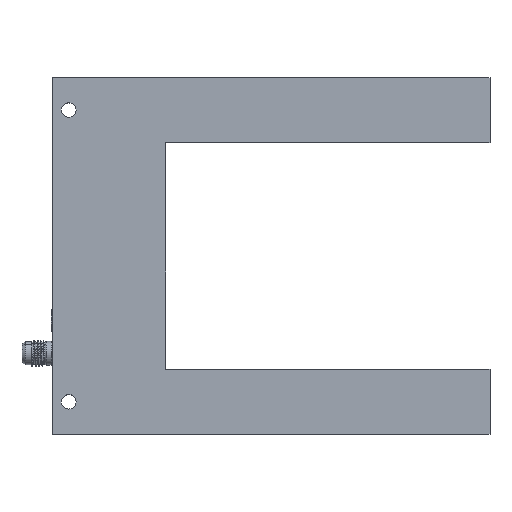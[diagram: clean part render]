
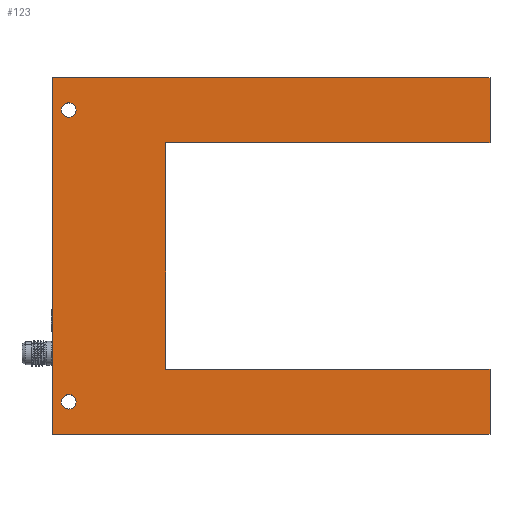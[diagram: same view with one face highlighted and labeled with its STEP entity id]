
A CAD part, top view. The second image highlights one B-rep face of the part: STEP entity #123.
In plain terms, the highlighted planar face has unit normal (0, 0, 1).
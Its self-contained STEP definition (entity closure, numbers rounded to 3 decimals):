
#123=ADVANCED_FACE('',(#318,#319,#320),#321,.T.);
#318=FACE_BOUND('',#598,.T.);
#319=FACE_BOUND('',#599,.T.);
#320=FACE_OUTER_BOUND('',#600,.T.);
#321=PLANE('',#601);
#598=EDGE_LOOP('',(#2289,#2290));
#599=EDGE_LOOP('',(#2291,#2292));
#600=EDGE_LOOP('',(#2293,#2294,#2295,#2296,#2297,#2298,#2299,#2300,#2301,#2302,#2303,#2304));
#601=AXIS2_PLACEMENT_3D('',#2305,#2306,#2307);
#2289=ORIENTED_EDGE('',*,*,#3027,.T.);
#2290=ORIENTED_EDGE('',*,*,#3028,.T.);
#2291=ORIENTED_EDGE('',*,*,#3025,.T.);
#2292=ORIENTED_EDGE('',*,*,#3020,.T.);
#2293=ORIENTED_EDGE('',*,*,#3029,.T.);
#2294=ORIENTED_EDGE('',*,*,#3030,.T.);
#2295=ORIENTED_EDGE('',*,*,#3031,.T.);
#2296=ORIENTED_EDGE('',*,*,#3032,.T.);
#2297=ORIENTED_EDGE('',*,*,#3033,.T.);
#2298=ORIENTED_EDGE('',*,*,#3034,.T.);
#2299=ORIENTED_EDGE('',*,*,#3035,.T.);
#2300=ORIENTED_EDGE('',*,*,#3036,.T.);
#2301=ORIENTED_EDGE('',*,*,#3037,.T.);
#2302=ORIENTED_EDGE('',*,*,#3038,.T.);
#2303=ORIENTED_EDGE('',*,*,#3039,.T.);
#2304=ORIENTED_EDGE('',*,*,#3040,.T.);
#2305=CARTESIAN_POINT('',(102.5,-45.0,10.0));
#2306=DIRECTION('',(0.0,0.0,1.0));
#2307=DIRECTION('',(1.0,0.0,0.0));
#3020=EDGE_CURVE('',#3330,#3327,#3331,.T.);
#3025=EDGE_CURVE('',#3327,#3330,#3337,.T.);
#3027=EDGE_CURVE('',#3339,#3340,#3341,.T.);
#3028=EDGE_CURVE('',#3340,#3339,#3342,.T.);
#3029=EDGE_CURVE('',#3343,#3344,#3345,.T.);
#3030=EDGE_CURVE('',#3344,#3346,#3347,.T.);
#3031=EDGE_CURVE('',#3346,#3348,#3349,.T.);
#3032=EDGE_CURVE('',#3348,#3350,#3351,.T.);
#3033=EDGE_CURVE('',#3350,#3352,#3353,.T.);
#3034=EDGE_CURVE('',#3352,#3354,#3355,.T.);
#3035=EDGE_CURVE('',#3354,#3356,#3357,.T.);
#3036=EDGE_CURVE('',#3356,#3358,#3359,.T.);
#3037=EDGE_CURVE('',#3358,#3360,#3361,.T.);
#3038=EDGE_CURVE('',#3360,#3362,#3363,.T.);
#3039=EDGE_CURVE('',#3362,#3364,#3365,.T.);
#3040=EDGE_CURVE('',#3364,#3343,#3366,.T.);
#3327=VERTEX_POINT('',#3806);
#3330=VERTEX_POINT('',#3810);
#3331=CIRCLE('',#3811,2.25);
#3337=CIRCLE('',#3818,2.25);
#3339=VERTEX_POINT('',#3820);
#3340=VERTEX_POINT('',#3821);
#3341=CIRCLE('',#3822,2.25);
#3342=CIRCLE('',#3823,2.25);
#3343=VERTEX_POINT('',#3824);
#3344=VERTEX_POINT('',#3825);
#3345=LINE('',#3826,#3827);
#3346=VERTEX_POINT('',#3828);
#3347=LINE('',#3829,#3830);
#3348=VERTEX_POINT('',#3831);
#3349=LINE('',#3832,#3833);
#3350=VERTEX_POINT('',#3834);
#3351=LINE('',#3835,#3836);
#3352=VERTEX_POINT('',#3837);
#3353=LINE('',#3838,#3839);
#3354=VERTEX_POINT('',#3840);
#3355=LINE('',#3841,#3842);
#3356=VERTEX_POINT('',#3843);
#3357=LINE('',#3844,#3845);
#3358=VERTEX_POINT('',#3846);
#3359=LINE('',#3847,#3848);
#3360=VERTEX_POINT('',#3849);
#3361=LINE('',#3850,#3851);
#3362=VERTEX_POINT('',#3852);
#3363=LINE('',#3853,#3854);
#3364=VERTEX_POINT('',#3855);
#3365=LINE('',#3856,#3857);
#3366=LINE('',#3858,#3859);
#3806=CARTESIAN_POINT('',(-10.25,45.0,10.0));
#3810=CARTESIAN_POINT('',(-14.75,45.0,10.0));
#3811=AXIS2_PLACEMENT_3D('',#4928,#4929,#4930);
#3818=AXIS2_PLACEMENT_3D('',#4938,#4939,#4940);
#3820=CARTESIAN_POINT('',(-10.25,-45.0,10.0));
#3821=CARTESIAN_POINT('',(-14.75,-45.0,10.0));
#3822=AXIS2_PLACEMENT_3D('',#4941,#4942,#4943);
#3823=AXIS2_PLACEMENT_3D('',#4944,#4945,#4946);
#3824=CARTESIAN_POINT('',(117.5,-55.0,10.0));
#3825=CARTESIAN_POINT('',(117.5,-35.0,10.0));
#3826=CARTESIAN_POINT('',(117.5,-45.0,10.0));
#3827=VECTOR('',#4947,1.0);
#3828=CARTESIAN_POINT('',(17.515,-35.0,10.0));
#3829=CARTESIAN_POINT('',(102.5,-35.0,10.0));
#3830=VECTOR('',#4948,1.0);
#3831=CARTESIAN_POINT('',(17.515,35.0,10.0));
#3832=CARTESIAN_POINT('',(17.515,0.0,10.0));
#3833=VECTOR('',#4949,1.);
#3834=CARTESIAN_POINT('',(117.5,35.0,10.0));
#3835=CARTESIAN_POINT('',(35.0,35.0,10.0));
#3836=VECTOR('',#4950,1.0);
#3837=CARTESIAN_POINT('',(117.5,55.0,10.0));
#3838=CARTESIAN_POINT('',(117.5,45.0,10.0));
#3839=VECTOR('',#4951,1.0);
#3840=CARTESIAN_POINT('',(-17.5,55.0,10.0));
#3841=CARTESIAN_POINT('',(102.5,55.0,10.0));
#3842=VECTOR('',#4952,1.0);
#3843=CARTESIAN_POINT('',(-17.5,40.0,10.0));
#3844=CARTESIAN_POINT('',(-17.5,45.0,10.0));
#3845=VECTOR('',#4953,1.0);
#3846=CARTESIAN_POINT('',(-17.485,40.0,10.0));
#3847=CARTESIAN_POINT('',(17.5,40.0,10.0));
#3848=VECTOR('',#4954,1.0);
#3849=CARTESIAN_POINT('',(-17.485,-40.0,10.0));
#3850=CARTESIAN_POINT('',(-17.485,0.0,10.0));
#3851=VECTOR('',#4955,1.);
#3852=CARTESIAN_POINT('',(-17.5,-40.0,10.0));
#3853=CARTESIAN_POINT('',(17.5,-40.0,10.0));
#3854=VECTOR('',#4956,1.0);
#3855=CARTESIAN_POINT('',(-17.5,-55.0,10.0));
#3856=CARTESIAN_POINT('',(-17.5,-45.0,10.0));
#3857=VECTOR('',#4957,1.0);
#3858=CARTESIAN_POINT('',(35.0,-55.0,10.0));
#3859=VECTOR('',#4958,1.0);
#4928=CARTESIAN_POINT('',(-12.5,45.0,10.0));
#4929=DIRECTION('',(0.0,0.0,-1.0));
#4930=DIRECTION('',(1.0,0.0,0.0));
#4938=CARTESIAN_POINT('',(-12.5,45.0,10.0));
#4939=DIRECTION('',(0.0,0.0,-1.0));
#4940=DIRECTION('',(1.0,0.0,0.0));
#4941=CARTESIAN_POINT('',(-12.5,-45.0,10.0));
#4942=DIRECTION('',(0.0,0.,-1.0));
#4943=DIRECTION('',(1.0,0.0,0.0));
#4944=CARTESIAN_POINT('',(-12.5,-45.0,10.0));
#4945=DIRECTION('',(0.0,0.,-1.0));
#4946=DIRECTION('',(1.0,0.0,0.0));
#4947=DIRECTION('',(0.0,1.0,0.0));
#4948=DIRECTION('',(-1.0,0.0,0.0));
#4949=DIRECTION('',(0.,1.0,0.));
#4950=DIRECTION('',(1.0,0.0,0.0));
#4951=DIRECTION('',(0.0,1.0,0.0));
#4952=DIRECTION('',(-1.0,0.0,0.0));
#4953=DIRECTION('',(0.0,-1.0,0.0));
#4954=DIRECTION('',(1.0,0.0,0.0));
#4955=DIRECTION('',(0.,-1.0,0.));
#4956=DIRECTION('',(-1.0,0.0,0.0));
#4957=DIRECTION('',(0.0,-1.0,0.));
#4958=DIRECTION('',(1.0,0.0,0.0));
